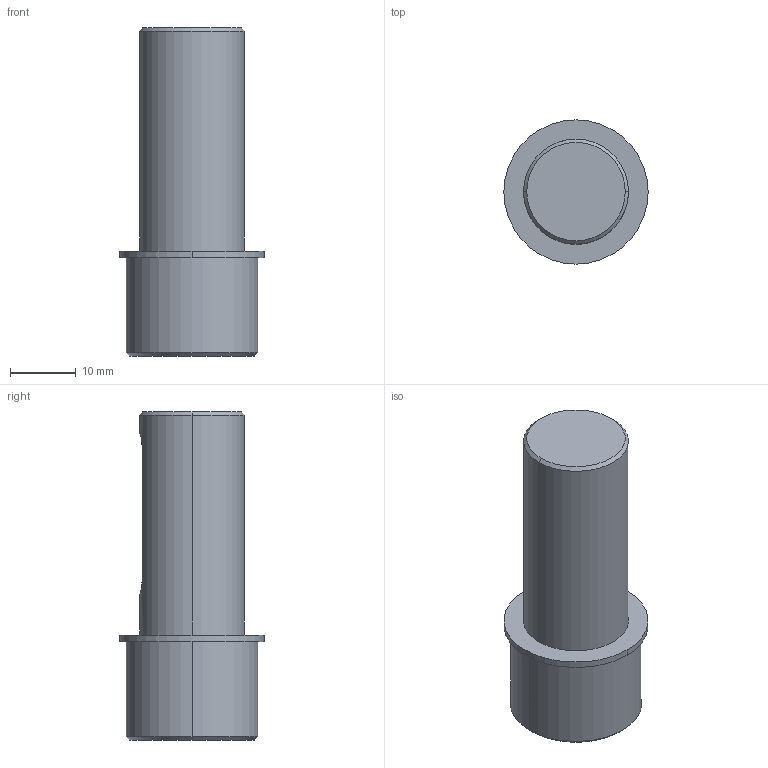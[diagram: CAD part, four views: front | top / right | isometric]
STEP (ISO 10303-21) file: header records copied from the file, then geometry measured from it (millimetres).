
FILE_DESCRIPTION((''),'2;1');
FILE_NAME('SJ-60','2016-01-29T',('STAFF'),(''),'PRO/ENGINEER BY PARAMETRIC TECHNOLOGY CORPORATION, 2009440','PRO/ENGINEER BY PARAMETRIC TECHNOLOGY CORPORATION, 2009440','');
FILE_SCHEMA(('CONFIG_CONTROL_DESIGN'));
Length unit declared in the file: millimetre
Products named in the file (1): SJ-60
Bounding box: 22 x 22 x 50 mm (x, y, z)
Volume: 11571 mm3; surface area: 3593.1 mm2
Topology: 1 solids, 1 shells, 19 faces, 38 edges, 24 vertices
Faces by surface type: cylinder 8, plane 7, cone 4
Entity records: 563 total; most frequent: CARTESIAN_POINT 112, DIRECTION 92, ORIENTED_EDGE 76, EDGE_CURVE 38, AXIS2_PLACEMENT_3D 37, VERTEX_POINT 24, EDGE_LOOP 22, FACE_OUTER_BOUND 19
